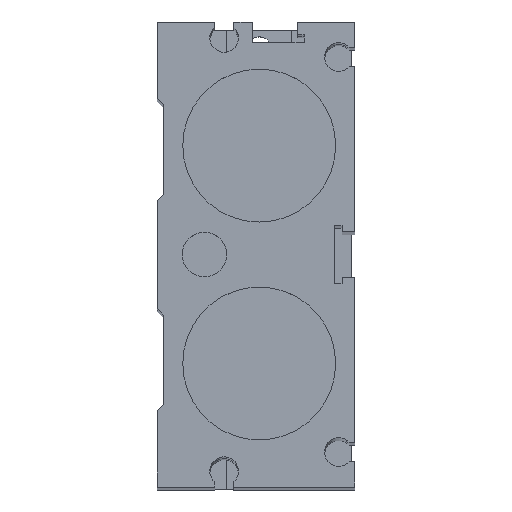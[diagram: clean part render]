
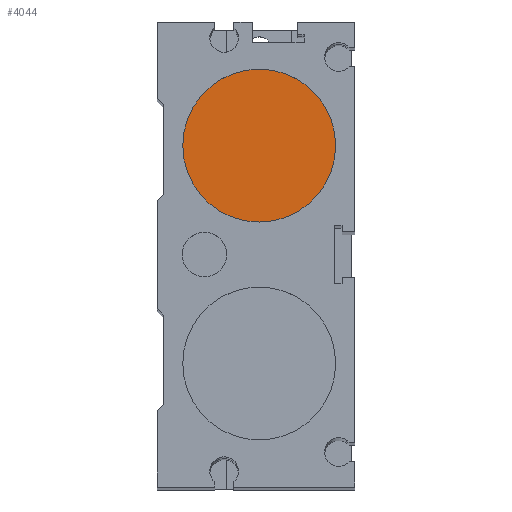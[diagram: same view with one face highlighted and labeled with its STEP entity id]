
A CAD part, top view. The second image highlights one B-rep face of the part: STEP entity #4044.
In plain terms, the highlighted planar face has unit normal (0, 0, 1).
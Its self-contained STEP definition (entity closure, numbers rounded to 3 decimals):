
#4021=CARTESIAN_POINT('',(12.,17.1,481.));
#4022=VERTEX_POINT('',#4021);
#4023=CARTESIAN_POINT('',(0.,17.1,481.));
#4024=DIRECTION('',(0.0,0.0,1.0));
#4025=DIRECTION('',(-1.0,0.0,0.0));
#4026=AXIS2_PLACEMENT_3D('',#4023,#4024,#4025);
#4027=CIRCLE('',#4026,12.);
#4028=EDGE_CURVE('',#4022,#4022,#4027,.T.);
#4036=CARTESIAN_POINT('',(0.,17.1,481.));
#4037=DIRECTION('',(0.0,0.0,-1.0));
#4038=DIRECTION('',(-1.0,0.0,0.0));
#4039=AXIS2_PLACEMENT_3D('',#4036,#4037,#4038);
#4040=PLANE('',#4039);
#4041=ORIENTED_EDGE('',*,*,#4028,.T.);
#4042=EDGE_LOOP('',(#4041));
#4043=FACE_OUTER_BOUND('',#4042,.T.);
#4044=ADVANCED_FACE('',(#4043),#4040,.F.);
